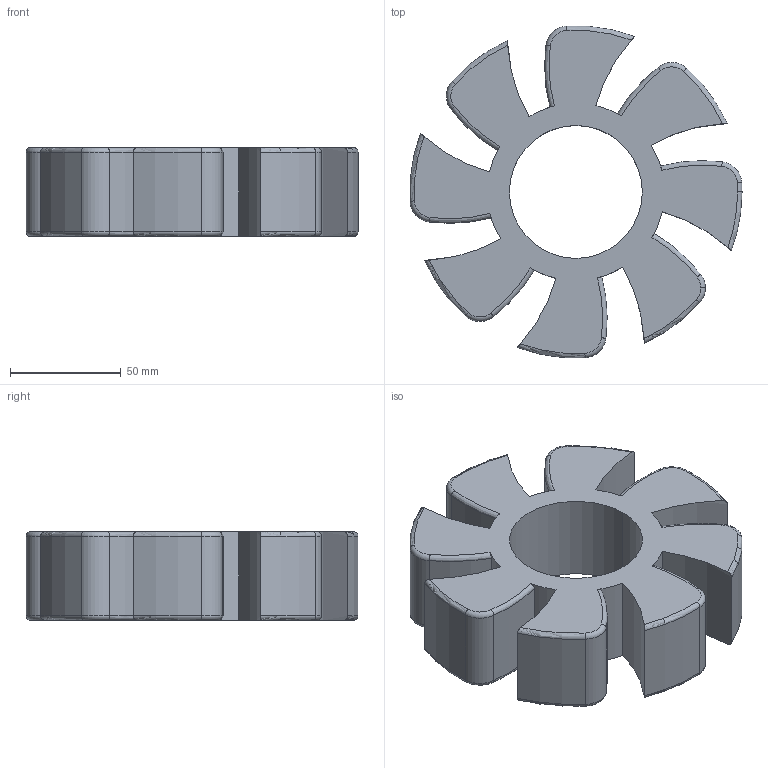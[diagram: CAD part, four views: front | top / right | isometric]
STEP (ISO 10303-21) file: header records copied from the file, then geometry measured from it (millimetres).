
FILE_DESCRIPTION (( 'STEP AP203' ), '1' );
FILE_NAME ('Tyre.STEP', '2021-06-04T13:43:09', ( '' ), ( '' ), 'SwSTEP 2.0', 'SolidWorks 2016', '' );
FILE_SCHEMA (( 'CONFIG_CONTROL_DESIGN' ));
Length unit declared in the file: centimetre
Products named in the file (1): Tyre
Bounding box: 149.88 x 149.77 x 40 mm (x, y, z)
Volume: 420418.3 mm3; surface area: 65916.1 mm2
Topology: 1 solids, 1 shells, 98 faces, 252 edges, 156 vertices
Faces by surface type: torus 36, bspline 32, cylinder 28, plane 2
Entity records: 4277 total; most frequent: CARTESIAN_POINT 1979, ORIENTED_EDGE 504, DIRECTION 434, EDGE_CURVE 252, AXIS2_PLACEMENT_3D 195, VERTEX_POINT 156, CIRCLE 128, EDGE_LOOP 100
